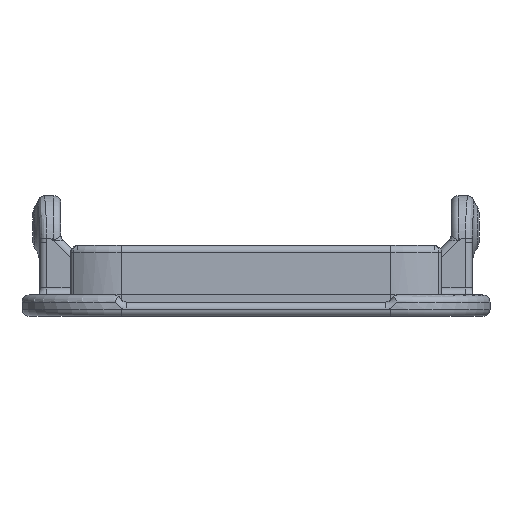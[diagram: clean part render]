
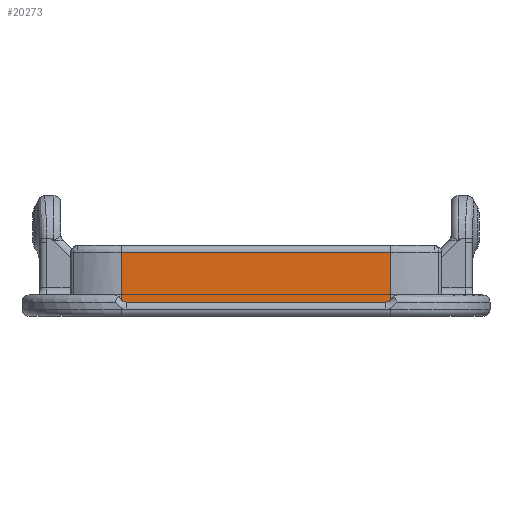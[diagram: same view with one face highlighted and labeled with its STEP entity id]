
A CAD part, left-side view. The second image highlights one B-rep face of the part: STEP entity #20273.
In plain terms, the highlighted planar face has unit normal (-1, 0, 0).
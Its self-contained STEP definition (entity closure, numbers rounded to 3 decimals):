
#2121 = ORIENTED_EDGE ( 'NONE', *, *, #29588, .F. ) ;
#2241 = AXIS2_PLACEMENT_3D ( 'NONE', #22644, #30798, #11705 ) ;
#4083 = CARTESIAN_POINT ( 'NONE',  ( -65., 9.5, 1.159 ) ) ;
#4603 = CIRCLE ( 'NONE', #36252, 0.5 ) ;
#5881 = AXIS2_PLACEMENT_3D ( 'NONE', #35964, #12805, #28339 ) ;
#7588 = CARTESIAN_POINT ( 'NONE',  ( -65., -9.5, 4.5 ) ) ;
#8037 = CARTESIAN_POINT ( 'NONE',  ( -65., 9.134, 1. ) ) ;
#8993 = DIRECTION ( 'NONE',  ( 0., 0., -1. ) ) ;
#9920 = DIRECTION ( 'NONE',  ( 0., 1., 0. ) ) ;
#11558 = VERTEX_POINT ( 'NONE', #8037 ) ;
#11705 = DIRECTION ( 'NONE',  ( 0., 0., -1. ) ) ;
#11741 = ORIENTED_EDGE ( 'NONE', *, *, #32548, .F. ) ;
#12204 = CARTESIAN_POINT ( 'NONE',  ( -65., 9.5, 4.5 ) ) ;
#12805 = DIRECTION ( 'NONE',  ( -1., 0., 0. ) ) ;
#13471 = VECTOR ( 'NONE', #9920, 1000. ) ;
#13740 = LINE ( 'NONE', #44737, #13471 ) ;
#15162 = VECTOR ( 'NONE', #23902, 1000. ) ;
#15635 = EDGE_LOOP ( 'NONE', ( #11741, #31987, #29774, #41834, #2121, #35653 ) ) ;
#16141 = LINE ( 'NONE', #44076, #31324 ) ;
#18623 = EDGE_CURVE ( 'NONE', #23593, #23025, #4603, .T. ) ;
#19680 = DIRECTION ( 'NONE',  ( -1., 0., 0. ) ) ;
#20273 = ADVANCED_FACE ( 'NONE', ( #42233 ), #39852, .F. ) ;
#20929 = CARTESIAN_POINT ( 'NONE',  ( -65., -9.5, 1.159 ) ) ;
#22644 = CARTESIAN_POINT ( 'NONE',  ( -65., 9.5, 5. ) ) ;
#23025 = VERTEX_POINT ( 'NONE', #20929 ) ;
#23593 = VERTEX_POINT ( 'NONE', #40621 ) ;
#23902 = DIRECTION ( 'NONE',  ( 0., 1., 0. ) ) ;
#24068 = LINE ( 'NONE', #28159, #47463 ) ;
#26635 = EDGE_CURVE ( 'NONE', #43216, #48691, #32293, .T. ) ;
#27951 = CARTESIAN_POINT ( 'NONE',  ( -65., 9.5, 4.5 ) ) ;
#28159 = CARTESIAN_POINT ( 'NONE',  ( -65., -9.5, 5. ) ) ;
#28339 = DIRECTION ( 'NONE',  ( 0., 0., -1. ) ) ;
#29588 = EDGE_CURVE ( 'NONE', #23593, #11558, #13740, .T. ) ;
#29774 = ORIENTED_EDGE ( 'NONE', *, *, #32897, .T. ) ;
#30798 = DIRECTION ( 'NONE',  ( 1., 0., 0. ) ) ;
#30809 = VERTEX_POINT ( 'NONE', #4083 ) ;
#31324 = VECTOR ( 'NONE', #8993, 1000. ) ;
#31987 = ORIENTED_EDGE ( 'NONE', *, *, #26635, .T. ) ;
#32293 = LINE ( 'NONE', #12204, #15162 ) ;
#32548 = EDGE_CURVE ( 'NONE', #43216, #23025, #24068, .T. ) ;
#32897 = EDGE_CURVE ( 'NONE', #48691, #30809, #16141, .T. ) ;
#35170 = DIRECTION ( 'NONE',  ( 0., 0., -1. ) ) ;
#35415 = CARTESIAN_POINT ( 'NONE',  ( -65., -9.134, 1.5 ) ) ;
#35653 = ORIENTED_EDGE ( 'NONE', *, *, #18623, .T. ) ;
#35964 = CARTESIAN_POINT ( 'NONE',  ( -65., 9.134, 1.5 ) ) ;
#36252 = AXIS2_PLACEMENT_3D ( 'NONE', #35415, #19680, #35170 ) ;
#39586 = DIRECTION ( 'NONE',  ( 0., 0., -1. ) ) ;
#39852 = PLANE ( 'NONE',  #2241 ) ;
#40621 = CARTESIAN_POINT ( 'NONE',  ( -65., -9.134, 1. ) ) ;
#41834 = ORIENTED_EDGE ( 'NONE', *, *, #47840, .T. ) ;
#42233 = FACE_OUTER_BOUND ( 'NONE', #15635, .T. ) ;
#43216 = VERTEX_POINT ( 'NONE', #7588 ) ;
#44076 = CARTESIAN_POINT ( 'NONE',  ( -65., 9.5, 5. ) ) ;
#44737 = CARTESIAN_POINT ( 'NONE',  ( -65., 9.5, 1. ) ) ;
#47463 = VECTOR ( 'NONE', #39586, 1000. ) ;
#47840 = EDGE_CURVE ( 'NONE', #30809, #11558, #49727, .T. ) ;
#48691 = VERTEX_POINT ( 'NONE', #27951 ) ;
#49727 = CIRCLE ( 'NONE', #5881, 0.5 ) ;
